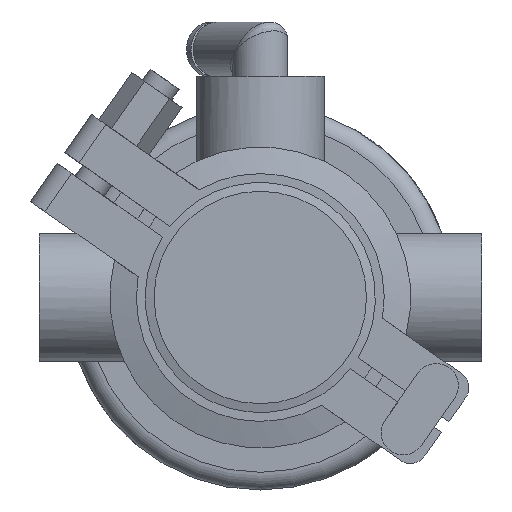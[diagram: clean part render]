
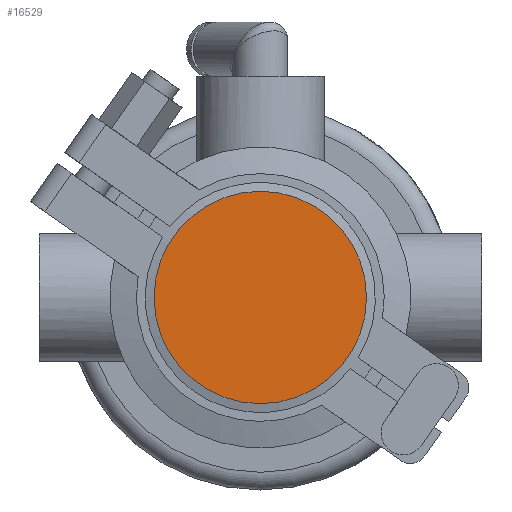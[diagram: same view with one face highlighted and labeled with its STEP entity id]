
A CAD part, front view. The second image highlights one B-rep face of the part: STEP entity #16529.
In plain terms, the highlighted planar face has unit normal (0, -1, 0).
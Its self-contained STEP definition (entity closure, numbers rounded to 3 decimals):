
#137 = VERTEX_POINT ( 'NONE', #17634 ) ;
#1148 = PLANE ( 'NONE',  #10349 ) ;
#1885 = ORIENTED_EDGE ( 'NONE', *, *, #9437, .F. ) ;
#2798 = DIRECTION ( 'NONE',  ( 0., 0., -1. ) ) ;
#4340 = DIRECTION ( 'NONE',  ( 0., 0., 1. ) ) ;
#7098 = CIRCLE ( 'NONE', #9760, 24. ) ;
#7144 = EDGE_LOOP ( 'NONE', ( #1885 ) ) ;
#7462 = CARTESIAN_POINT ( 'NONE',  ( -24., 0., 0. ) ) ;
#9437 = EDGE_CURVE ( 'NONE', #137, #137, #7098, .T. ) ;
#9760 = AXIS2_PLACEMENT_3D ( 'NONE', #17270, #15193, #4340 ) ;
#10349 = AXIS2_PLACEMENT_3D ( 'NONE', #7462, #17070, #2798 ) ;
#13856 = FACE_OUTER_BOUND ( 'NONE', #7144, .T. ) ;
#15193 = DIRECTION ( 'NONE',  ( 0., 1., 0. ) ) ;
#16529 = ADVANCED_FACE ( 'NONE', ( #13856 ), #1148, .T. ) ;
#17070 = DIRECTION ( 'NONE',  ( 0., -1., 0. ) ) ;
#17270 = CARTESIAN_POINT ( 'NONE',  ( 0., 0., 0. ) ) ;
#17634 = CARTESIAN_POINT ( 'NONE',  ( 0., 0., 24. ) ) ;
